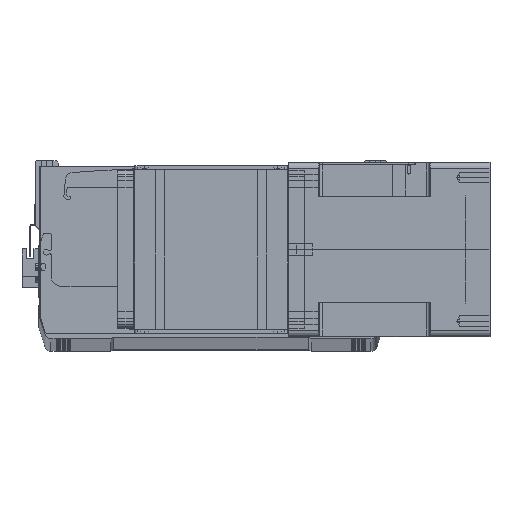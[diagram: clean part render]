
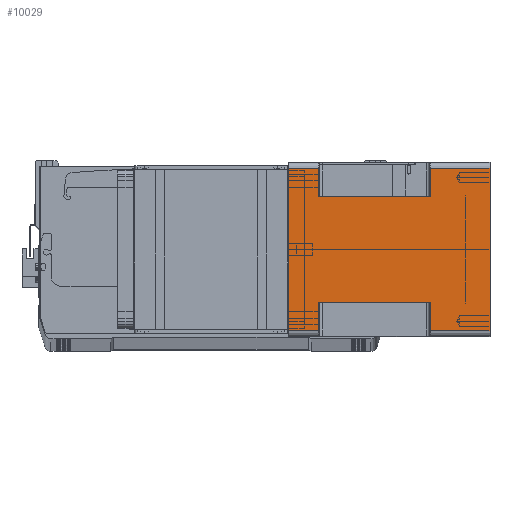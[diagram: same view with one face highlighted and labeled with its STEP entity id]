
A CAD part, top view. The second image highlights one B-rep face of the part: STEP entity #10029.
In plain terms, the highlighted planar face has unit normal (0, 0, 1) as drawn and (1, 0, 0) by its records, which use the part's own axes.
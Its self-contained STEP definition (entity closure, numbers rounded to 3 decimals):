
#337 = LINE ( 'NONE', #36586, #25149 ) ;
#566 = CARTESIAN_POINT ( 'NONE',  ( 71., -66., -164. ) ) ;
#936 = CARTESIAN_POINT ( 'NONE',  ( 71., -43., -24.5 ) ) ;
#1496 = VECTOR ( 'NONE', #19598, 1000. ) ;
#1563 = ORIENTED_EDGE ( 'NONE', *, *, #24303, .T. ) ;
#1700 = CARTESIAN_POINT ( 'NONE',  ( 71., -66., -164. ) ) ;
#1739 = EDGE_CURVE ( 'NONE', #10692, #19682, #36244, .T. ) ;
#2177 = LINE ( 'NONE', #1700, #11775 ) ;
#2584 = VERTEX_POINT ( 'NONE', #30435 ) ;
#2788 = DIRECTION ( 'NONE',  ( 0., 1., 0. ) ) ;
#3268 = AXIS2_PLACEMENT_3D ( 'NONE', #31690, #22051, #21767 ) ;
#3348 = DIRECTION ( 'NONE',  ( 0., 0., 1. ) ) ;
#3510 = ORIENTED_EDGE ( 'NONE', *, *, #15663, .F. ) ;
#3818 = DIRECTION ( 'NONE',  ( 0., 0., 1. ) ) ;
#4563 = CARTESIAN_POINT ( 'NONE',  ( 71., 66., -164. ) ) ;
#5243 = CARTESIAN_POINT ( 'NONE',  ( 71., 66., -164. ) ) ;
#5406 = CARTESIAN_POINT ( 'NONE',  ( 71., -66., 0. ) ) ;
#5423 = EDGE_LOOP ( 'NONE', ( #7182, #27392, #21619, #33100, #16542, #1563, #3510, #24137, #16805, #36573, #15832, #15655 ) ) ;
#6263 = CARTESIAN_POINT ( 'NONE',  ( 71., 66., -24.5 ) ) ;
#6460 = VECTOR ( 'NONE', #21256, 1000. ) ;
#6564 = EDGE_CURVE ( 'NONE', #31235, #2584, #13738, .T. ) ;
#7182 = ORIENTED_EDGE ( 'NONE', *, *, #38934, .F. ) ;
#7936 = VECTOR ( 'NONE', #11360, 1000. ) ;
#7953 = DIRECTION ( 'NONE',  ( 0., 1., 0. ) ) ;
#8751 = VERTEX_POINT ( 'NONE', #936 ) ;
#8830 = CARTESIAN_POINT ( 'NONE',  ( 71., -66., -164. ) ) ;
#9067 = LINE ( 'NONE', #37259, #28325 ) ;
#9258 = CARTESIAN_POINT ( 'NONE',  ( 71., -66., -24.5 ) ) ;
#9719 = CARTESIAN_POINT ( 'NONE',  ( 71., 43., -115.5 ) ) ;
#10029 = ADVANCED_FACE ( 'NONE', ( #30511 ), #15104, .T. ) ;
#10561 = DIRECTION ( 'NONE',  ( 0., 0., -1. ) ) ;
#10692 = VERTEX_POINT ( 'NONE', #5406 ) ;
#11266 = VERTEX_POINT ( 'NONE', #11326 ) ;
#11326 = CARTESIAN_POINT ( 'NONE',  ( 71., 43., -115.5 ) ) ;
#11360 = DIRECTION ( 'NONE',  ( 0., -1., 0. ) ) ;
#11775 = VECTOR ( 'NONE', #40550, 1000. ) ;
#12398 = VERTEX_POINT ( 'NONE', #23157 ) ;
#12879 = VERTEX_POINT ( 'NONE', #21807 ) ;
#13011 = LINE ( 'NONE', #40580, #7936 ) ;
#13738 = LINE ( 'NONE', #26120, #35553 ) ;
#15104 = PLANE ( 'NONE',  #3268 ) ;
#15221 = DIRECTION ( 'NONE',  ( 0., 1., 0. ) ) ;
#15655 = ORIENTED_EDGE ( 'NONE', *, *, #16000, .T. ) ;
#15663 = EDGE_CURVE ( 'NONE', #29281, #11266, #337, .T. ) ;
#15832 = ORIENTED_EDGE ( 'NONE', *, *, #19209, .F. ) ;
#16000 = EDGE_CURVE ( 'NONE', #38383, #8751, #38269, .T. ) ;
#16542 = ORIENTED_EDGE ( 'NONE', *, *, #25161, .T. ) ;
#16805 = ORIENTED_EDGE ( 'NONE', *, *, #28447, .T. ) ;
#17325 = LINE ( 'NONE', #5243, #34561 ) ;
#18275 = DIRECTION ( 'NONE',  ( 0., 0., 1. ) ) ;
#19209 = EDGE_CURVE ( 'NONE', #38383, #10692, #25947, .T. ) ;
#19598 = DIRECTION ( 'NONE',  ( 0., -1., 0. ) ) ;
#19682 = VERTEX_POINT ( 'NONE', #29342 ) ;
#20493 = VERTEX_POINT ( 'NONE', #6263 ) ;
#21256 = DIRECTION ( 'NONE',  ( 0., 0., 1. ) ) ;
#21619 = ORIENTED_EDGE ( 'NONE', *, *, #6564, .F. ) ;
#21659 = CARTESIAN_POINT ( 'NONE',  ( 71., 43., -24.5 ) ) ;
#21767 = DIRECTION ( 'NONE',  ( 0., 1., 0. ) ) ;
#21807 = CARTESIAN_POINT ( 'NONE',  ( 71., 66., -164. ) ) ;
#22051 = DIRECTION ( 'NONE',  ( 1., 0., 0. ) ) ;
#22372 = VECTOR ( 'NONE', #2788, 1000. ) ;
#22607 = CARTESIAN_POINT ( 'NONE',  ( 71., 66., -115.5 ) ) ;
#23157 = CARTESIAN_POINT ( 'NONE',  ( 71., -43., -115.5 ) ) ;
#24137 = ORIENTED_EDGE ( 'NONE', *, *, #28080, .T. ) ;
#24303 = EDGE_CURVE ( 'NONE', #27167, #11266, #30400, .T. ) ;
#25000 = CARTESIAN_POINT ( 'NONE',  ( 71., -66., 0. ) ) ;
#25149 = VECTOR ( 'NONE', #10561, 1000. ) ;
#25161 = EDGE_CURVE ( 'NONE', #12879, #27167, #34309, .T. ) ;
#25947 = LINE ( 'NONE', #566, #27448 ) ;
#26120 = CARTESIAN_POINT ( 'NONE',  ( 71., -66., -164. ) ) ;
#26793 = CARTESIAN_POINT ( 'NONE',  ( 71., -43., -24.5 ) ) ;
#27167 = VERTEX_POINT ( 'NONE', #22607 ) ;
#27392 = ORIENTED_EDGE ( 'NONE', *, *, #39947, .T. ) ;
#27448 = VECTOR ( 'NONE', #3818, 1000. ) ;
#27832 = EDGE_CURVE ( 'NONE', #31235, #12879, #2177, .T. ) ;
#28080 = EDGE_CURVE ( 'NONE', #29281, #20493, #29496, .T. ) ;
#28325 = VECTOR ( 'NONE', #40706, 1000. ) ;
#28447 = EDGE_CURVE ( 'NONE', #20493, #19682, #17325, .T. ) ;
#29281 = VERTEX_POINT ( 'NONE', #21659 ) ;
#29342 = CARTESIAN_POINT ( 'NONE',  ( 71., 66., 0. ) ) ;
#29496 = LINE ( 'NONE', #9258, #22372 ) ;
#30400 = LINE ( 'NONE', #9719, #1496 ) ;
#30435 = CARTESIAN_POINT ( 'NONE',  ( 71., -66., -115.5 ) ) ;
#30511 = FACE_OUTER_BOUND ( 'NONE', #5423, .T. ) ;
#31235 = VERTEX_POINT ( 'NONE', #8830 ) ;
#31690 = CARTESIAN_POINT ( 'NONE',  ( 71., -66., -164. ) ) ;
#33100 = ORIENTED_EDGE ( 'NONE', *, *, #27832, .T. ) ;
#34309 = LINE ( 'NONE', #4563, #6460 ) ;
#34561 = VECTOR ( 'NONE', #18275, 1000. ) ;
#34750 = VECTOR ( 'NONE', #15221, 1000. ) ;
#35553 = VECTOR ( 'NONE', #3348, 1000. ) ;
#36180 = CARTESIAN_POINT ( 'NONE',  ( 71., -66., -24.5 ) ) ;
#36244 = LINE ( 'NONE', #25000, #34750 ) ;
#36573 = ORIENTED_EDGE ( 'NONE', *, *, #1739, .F. ) ;
#36586 = CARTESIAN_POINT ( 'NONE',  ( 71., 43., -164. ) ) ;
#37259 = CARTESIAN_POINT ( 'NONE',  ( 71., -43., -164. ) ) ;
#38269 = LINE ( 'NONE', #26793, #41359 ) ;
#38383 = VERTEX_POINT ( 'NONE', #36180 ) ;
#38934 = EDGE_CURVE ( 'NONE', #12398, #8751, #9067, .T. ) ;
#39947 = EDGE_CURVE ( 'NONE', #12398, #2584, #13011, .T. ) ;
#40550 = DIRECTION ( 'NONE',  ( 0., 1., 0. ) ) ;
#40580 = CARTESIAN_POINT ( 'NONE',  ( 71., -66., -115.5 ) ) ;
#40706 = DIRECTION ( 'NONE',  ( 0., 0., 1. ) ) ;
#41359 = VECTOR ( 'NONE', #7953, 1000. ) ;
